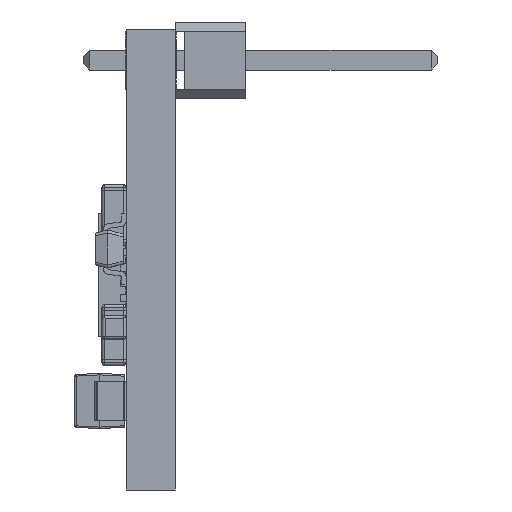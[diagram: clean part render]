
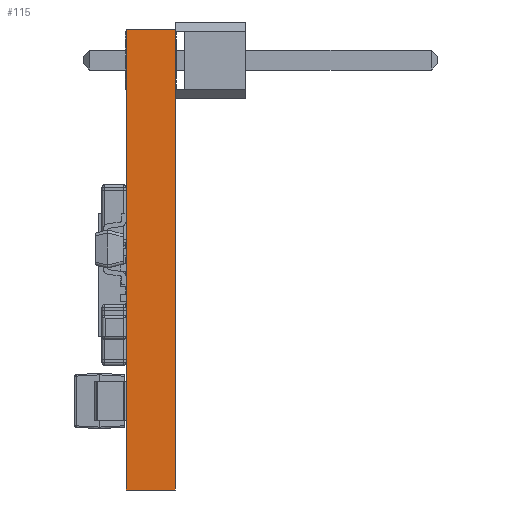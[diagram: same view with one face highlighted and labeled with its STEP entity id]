
A CAD part, left-side view. The second image highlights one B-rep face of the part: STEP entity #115.
In plain terms, the highlighted planar face has unit normal (-1, 0, 0).
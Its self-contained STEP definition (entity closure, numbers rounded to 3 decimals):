
#115 = ADVANCED_FACE ( 'NONE', ( #86831 ), #84826, .F. ) ;
#13351 = CARTESIAN_POINT ( 'NONE',  ( -9.433, 0.089, 27.5 ) ) ;
#16848 = VERTEX_POINT ( 'NONE', #24364 ) ;
#23303 = EDGE_CURVE ( 'NONE', #122574, #37370, #135029, .T. ) ;
#24364 = CARTESIAN_POINT ( 'NONE',  ( -9.433, -1.511, 12.5 ) ) ;
#27750 = CARTESIAN_POINT ( 'NONE',  ( -9.433, 0.089, 12.5 ) ) ;
#37370 = VERTEX_POINT ( 'NONE', #49800 ) ;
#41231 = LINE ( 'NONE', #125239, #108409 ) ;
#41424 = CARTESIAN_POINT ( 'NONE',  ( -9.433, 0.089, 27.5 ) ) ;
#47081 = DIRECTION ( 'NONE',  ( 0., 0., -1. ) ) ;
#49800 = CARTESIAN_POINT ( 'NONE',  ( -9.433, -1.511, 27.5 ) ) ;
#51932 = ORIENTED_EDGE ( 'NONE', *, *, #92894, .T. ) ;
#52515 = LINE ( 'NONE', #105879, #126059 ) ;
#54111 = EDGE_LOOP ( 'NONE', ( #51932, #106266, #97435, #71050 ) ) ;
#57500 = EDGE_CURVE ( 'NONE', #90781, #16848, #52515, .T. ) ;
#60693 = VECTOR ( 'NONE', #83106, 1000. ) ;
#70029 = LINE ( 'NONE', #112377, #126169 ) ;
#71050 = ORIENTED_EDGE ( 'NONE', *, *, #57500, .T. ) ;
#77851 = DIRECTION ( 'NONE',  ( 1., 0., 0. ) ) ;
#83106 = DIRECTION ( 'NONE',  ( 0., -1., 0. ) ) ;
#84826 = PLANE ( 'NONE',  #123275 ) ;
#86831 = FACE_OUTER_BOUND ( 'NONE', #54111, .T. ) ;
#90781 = VERTEX_POINT ( 'NONE', #27750 ) ;
#92894 = EDGE_CURVE ( 'NONE', #16848, #37370, #41231, .T. ) ;
#94274 = DIRECTION ( 'NONE',  ( 0., -1., 0. ) ) ;
#97435 = ORIENTED_EDGE ( 'NONE', *, *, #107080, .F. ) ;
#100516 = CARTESIAN_POINT ( 'NONE',  ( -9.433, 0.089, 12.5 ) ) ;
#105879 = CARTESIAN_POINT ( 'NONE',  ( -9.433, 0.089, 12.5 ) ) ;
#106266 = ORIENTED_EDGE ( 'NONE', *, *, #23303, .F. ) ;
#107080 = EDGE_CURVE ( 'NONE', #90781, #122574, #70029, .T. ) ;
#108409 = VECTOR ( 'NONE', #124563, 1000. ) ;
#112377 = CARTESIAN_POINT ( 'NONE',  ( -9.433, 0.089, 12.5 ) ) ;
#122574 = VERTEX_POINT ( 'NONE', #13351 ) ;
#123275 = AXIS2_PLACEMENT_3D ( 'NONE', #100516, #77851, #47081 ) ;
#124563 = DIRECTION ( 'NONE',  ( 0., 0., 1. ) ) ;
#125239 = CARTESIAN_POINT ( 'NONE',  ( -9.433, -1.511, 12.5 ) ) ;
#126059 = VECTOR ( 'NONE', #94274, 1000. ) ;
#126169 = VECTOR ( 'NONE', #134948, 1000. ) ;
#134948 = DIRECTION ( 'NONE',  ( 0., 0., 1. ) ) ;
#135029 = LINE ( 'NONE', #41424, #60693 ) ;
